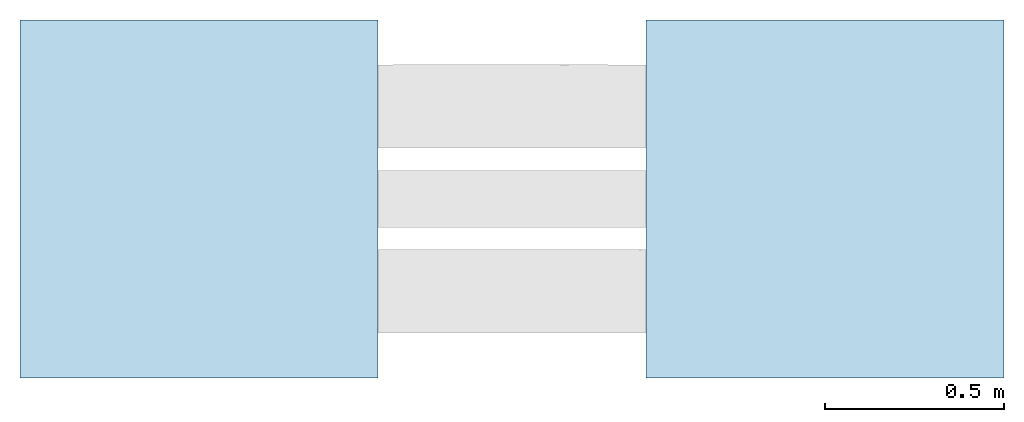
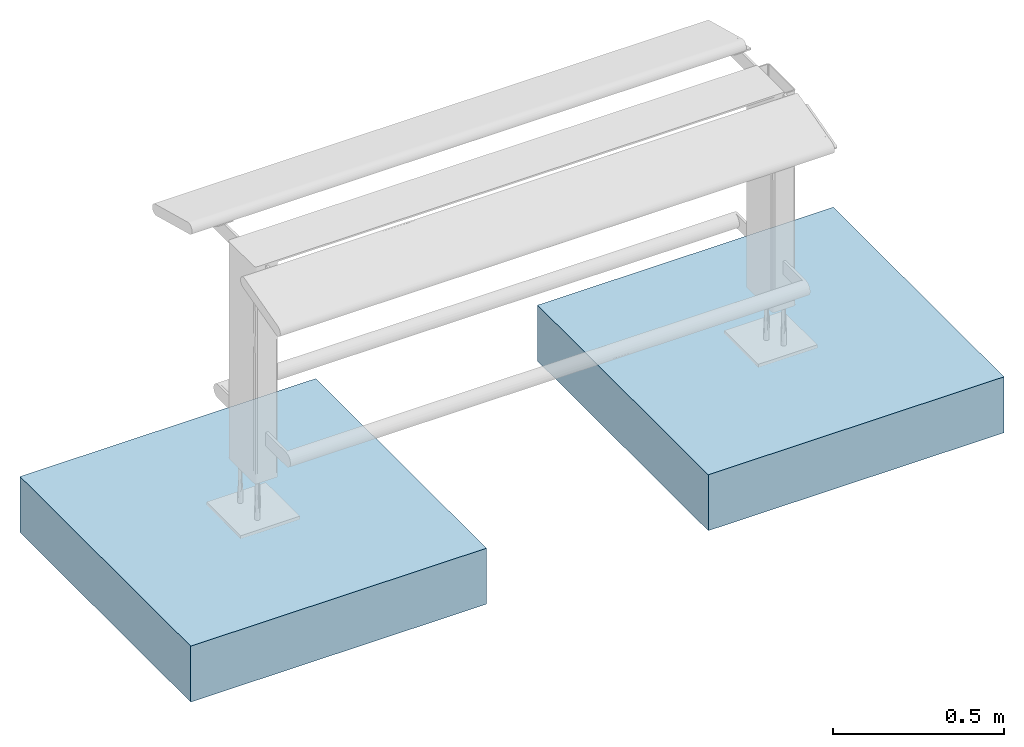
# One storey, incomplete: 2 slabs.
"""IFC4 building model written with IfcOpenShell, lengths in metres."""

from ifc_helpers import new_model, entity, si_unit, converted_unit, direction, frame, frame_2d, origin, origin_2d_with_axis, place, context, subcontext, project, spatial, rectangle, extrude, material, type_object, element, save


model = new_model("IFC4")

# Units and contexts
model_context = context("Model", 3, precision=1e-05, world=origin(), true_north=direction((6.123031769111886e-17, 1.0)))
body_context = subcontext(model_context, "Body", "Model", "MODEL_VIEW")
ifc_project = project(units=[si_unit("LENGTHUNIT", "METRE"), converted_unit("PLANEANGLEUNIT", "DEGREE", entity("IfcPlaneAngleMeasure", 0.017453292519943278), si_unit("PLANEANGLEUNIT", "RADIAN"), dimensions=[0, 0, 0, 0, 0, 0, 0]), si_unit("AREAUNIT", "SQUARE_METRE")], contexts=[model_context])

# Site, building, storey
site_placement = place(None, origin())
site = spatial("IfcSite", under=ifc_project, at=site_placement, Name="Default", CompositionType="ELEMENT")
building_placement = place(site_placement, origin())
building = spatial("IfcBuilding", under=site, at=building_placement, CompositionType="ELEMENT")
storey_placement = place(building_placement, origin())
storey = spatial("IfcBuildingStorey", under=building, at=storey_placement, Name="Ebene 0", CompositionType="ELEMENT", Elevation=0.0)

# Slabs
ifc_material = material(Name="DB_Fertigbeton", Category="DB_Beton")
slab_type = type_object("IfcSlabType", Name="DB_Calidum_light_Fundament:DB_Calidum_light_Fundament", PredefinedType="BASESLAB", material=ifc_material)
slab_1_placement = place(storey_placement, origin())
element("IfcSlab", 1, at=slab_1_placement, inside=storey, type_object=slab_type, Name="DB_Calidum_light_Fundament:DB_Calidum_light_Fundament", ObjectType="DB_Calidum_light_Fundament:DB_Calidum_light_Fundament", PredefinedType="BASESLAB", context=body_context, shape_type="SweptSolid", body=[
    extrude(rectangle(XDim=0.9999999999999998, YDim=0.9999999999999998, at=origin_2d_with_axis()), frame((0.0, 0.0, -0.36199999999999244), z_axis=(0.0, 0.0, 1.0), x_axis=(0.0, 1.0, 0.0)), (0.0, 0.0, 1.0), 0.2),
])
slab_2_placement = place(storey_placement, origin())
element("IfcSlab", 2, at=slab_2_placement, inside=storey, type_object=slab_type, Name="DB_Calidum_light_Fundament:DB_Calidum_light_Fundament", ObjectType="DB_Calidum_light_Fundament:DB_Calidum_light_Fundament", PredefinedType="BASESLAB", context=body_context, shape_type="SweptSolid", body=[
    extrude(rectangle(XDim=0.9999999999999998, YDim=0.9999999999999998, at=frame_2d((0.0, 1.1102230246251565e-16), x_axis=(1.0, 0.0))), frame((-1.7500000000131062, 0.0, -0.3619999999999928), z_axis=(0.0, 0.0, 1.0), x_axis=(0.0, 1.0, 0.0)), (0.0, 0.0, 1.0), 0.2),
])

save(model, "model.ifc")
